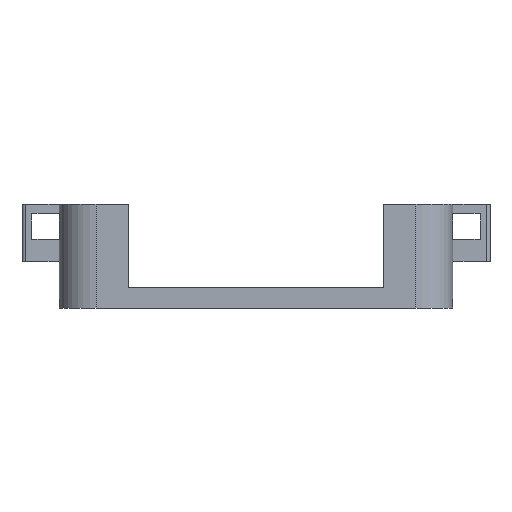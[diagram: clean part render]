
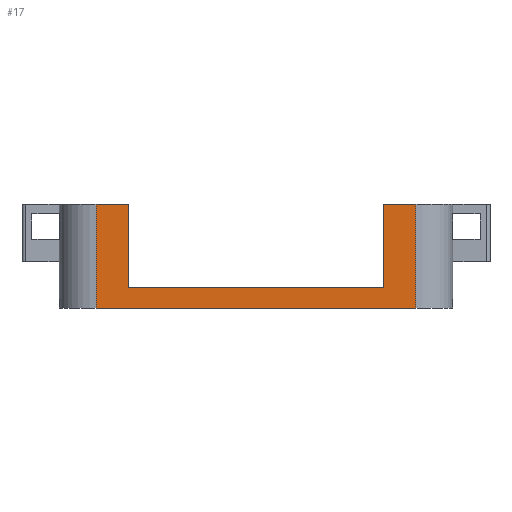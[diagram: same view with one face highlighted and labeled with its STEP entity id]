
A CAD part, left-side view. The second image highlights one B-rep face of the part: STEP entity #17.
In plain terms, the highlighted planar face has unit normal (-1, 0, 0).
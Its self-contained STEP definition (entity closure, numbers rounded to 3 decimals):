
#17 = ADVANCED_FACE('',(#18),#32,.F.);
#18 = FACE_BOUND('',#19,.F.);
#19 = EDGE_LOOP('',(#20,#55,#83,#111,#139,#167,#193,#219));
#20 = ORIENTED_EDGE('',*,*,#21,.F.);
#21 = EDGE_CURVE('',#22,#24,#26,.T.);
#22 = VERTEX_POINT('',#23);
#23 = CARTESIAN_POINT('',(-52.3,-28.3,18.4));
#24 = VERTEX_POINT('',#25);
#25 = CARTESIAN_POINT('',(-52.3,-22.5,18.4));
#26 = SURFACE_CURVE('',#27,(#31,#43),.PCURVE_S1.);
#27 = LINE('',#28,#29);
#28 = CARTESIAN_POINT('',(-52.3,-34.8,18.4));
#29 = VECTOR('',#30,1.);
#30 = DIRECTION('',(0.,1.,0.));
#31 = PCURVE('',#32,#37);
#32 = PLANE('',#33);
#33 = AXIS2_PLACEMENT_3D('',#34,#35,#36);
#34 = CARTESIAN_POINT('',(-52.3,-34.8,0.));
#35 = DIRECTION('',(1.,0.,0.));
#36 = DIRECTION('',(0.,0.,1.));
#37 = DEFINITIONAL_REPRESENTATION('',(#38),#42);
#38 = LINE('',#39,#40);
#39 = CARTESIAN_POINT('',(18.4,0.));
#40 = VECTOR('',#41,1.);
#41 = DIRECTION('',(0.,-1.));
#42 = ( GEOMETRIC_REPRESENTATION_CONTEXT(2) 
PARAMETRIC_REPRESENTATION_CONTEXT() REPRESENTATION_CONTEXT('2D SPACE',''
  ) );
#43 = PCURVE('',#44,#49);
#44 = PLANE('',#45);
#45 = AXIS2_PLACEMENT_3D('',#46,#47,#48);
#46 = CARTESIAN_POINT('',(-52.3,-34.8,18.4));
#47 = DIRECTION('',(0.,0.,1.));
#48 = DIRECTION('',(1.,0.,0.));
#49 = DEFINITIONAL_REPRESENTATION('',(#50),#54);
#50 = LINE('',#51,#52);
#51 = CARTESIAN_POINT('',(0.,0.));
#52 = VECTOR('',#53,1.);
#53 = DIRECTION('',(0.,1.));
#54 = ( GEOMETRIC_REPRESENTATION_CONTEXT(2) 
PARAMETRIC_REPRESENTATION_CONTEXT() REPRESENTATION_CONTEXT('2D SPACE',''
  ) );
#55 = ORIENTED_EDGE('',*,*,#56,.F.);
#56 = EDGE_CURVE('',#57,#22,#59,.T.);
#57 = VERTEX_POINT('',#58);
#58 = CARTESIAN_POINT('',(-52.3,-28.3,0.));
#59 = SURFACE_CURVE('',#60,(#64,#71),.PCURVE_S1.);
#60 = LINE('',#61,#62);
#61 = CARTESIAN_POINT('',(-52.3,-28.3,0.));
#62 = VECTOR('',#63,1.);
#63 = DIRECTION('',(0.,0.,1.));
#64 = PCURVE('',#32,#65);
#65 = DEFINITIONAL_REPRESENTATION('',(#66),#70);
#66 = LINE('',#67,#68);
#67 = CARTESIAN_POINT('',(0.,-6.5));
#68 = VECTOR('',#69,1.);
#69 = DIRECTION('',(1.,0.));
#70 = ( GEOMETRIC_REPRESENTATION_CONTEXT(2) 
PARAMETRIC_REPRESENTATION_CONTEXT() REPRESENTATION_CONTEXT('2D SPACE',''
  ) );
#71 = PCURVE('',#72,#77);
#72 = CYLINDRICAL_SURFACE('',#73,6.5);
#73 = AXIS2_PLACEMENT_3D('',#74,#75,#76);
#74 = CARTESIAN_POINT('',(-45.8,-28.3,0.));
#75 = DIRECTION('',(0.,0.,1.));
#76 = DIRECTION('',(-1.,-0.,0.));
#77 = DEFINITIONAL_REPRESENTATION('',(#78),#82);
#78 = LINE('',#79,#80);
#79 = CARTESIAN_POINT('',(0.,0.));
#80 = VECTOR('',#81,1.);
#81 = DIRECTION('',(0.,1.));
#82 = ( GEOMETRIC_REPRESENTATION_CONTEXT(2) 
PARAMETRIC_REPRESENTATION_CONTEXT() REPRESENTATION_CONTEXT('2D SPACE',''
  ) );
#83 = ORIENTED_EDGE('',*,*,#84,.T.);
#84 = EDGE_CURVE('',#57,#85,#87,.T.);
#85 = VERTEX_POINT('',#86);
#86 = CARTESIAN_POINT('',(-52.3,28.3,0.));
#87 = SURFACE_CURVE('',#88,(#92,#99),.PCURVE_S1.);
#88 = LINE('',#89,#90);
#89 = CARTESIAN_POINT('',(-52.3,-34.8,0.));
#90 = VECTOR('',#91,1.);
#91 = DIRECTION('',(0.,1.,0.));
#92 = PCURVE('',#32,#93);
#93 = DEFINITIONAL_REPRESENTATION('',(#94),#98);
#94 = LINE('',#95,#96);
#95 = CARTESIAN_POINT('',(0.,0.));
#96 = VECTOR('',#97,1.);
#97 = DIRECTION('',(0.,-1.));
#98 = ( GEOMETRIC_REPRESENTATION_CONTEXT(2) 
PARAMETRIC_REPRESENTATION_CONTEXT() REPRESENTATION_CONTEXT('2D SPACE',''
  ) );
#99 = PCURVE('',#100,#105);
#100 = PLANE('',#101);
#101 = AXIS2_PLACEMENT_3D('',#102,#103,#104);
#102 = CARTESIAN_POINT('',(-52.3,-34.8,0.));
#103 = DIRECTION('',(0.,0.,1.));
#104 = DIRECTION('',(1.,0.,0.));
#105 = DEFINITIONAL_REPRESENTATION('',(#106),#110);
#106 = LINE('',#107,#108);
#107 = CARTESIAN_POINT('',(0.,0.));
#108 = VECTOR('',#109,1.);
#109 = DIRECTION('',(0.,1.));
#110 = ( GEOMETRIC_REPRESENTATION_CONTEXT(2) 
PARAMETRIC_REPRESENTATION_CONTEXT() REPRESENTATION_CONTEXT('2D SPACE',''
  ) );
#111 = ORIENTED_EDGE('',*,*,#112,.T.);
#112 = EDGE_CURVE('',#85,#113,#115,.T.);
#113 = VERTEX_POINT('',#114);
#114 = CARTESIAN_POINT('',(-52.3,28.3,18.4));
#115 = SURFACE_CURVE('',#116,(#120,#127),.PCURVE_S1.);
#116 = LINE('',#117,#118);
#117 = CARTESIAN_POINT('',(-52.3,28.3,0.));
#118 = VECTOR('',#119,1.);
#119 = DIRECTION('',(0.,0.,1.));
#120 = PCURVE('',#32,#121);
#121 = DEFINITIONAL_REPRESENTATION('',(#122),#126);
#122 = LINE('',#123,#124);
#123 = CARTESIAN_POINT('',(0.,-63.1));
#124 = VECTOR('',#125,1.);
#125 = DIRECTION('',(1.,0.));
#126 = ( GEOMETRIC_REPRESENTATION_CONTEXT(2) 
PARAMETRIC_REPRESENTATION_CONTEXT() REPRESENTATION_CONTEXT('2D SPACE',''
  ) );
#127 = PCURVE('',#128,#133);
#128 = CYLINDRICAL_SURFACE('',#129,6.5);
#129 = AXIS2_PLACEMENT_3D('',#130,#131,#132);
#130 = CARTESIAN_POINT('',(-45.8,28.3,0.));
#131 = DIRECTION('',(0.,0.,1.));
#132 = DIRECTION('',(-1.,-0.,0.));
#133 = DEFINITIONAL_REPRESENTATION('',(#134),#138);
#134 = LINE('',#135,#136);
#135 = CARTESIAN_POINT('',(-0.,0.));
#136 = VECTOR('',#137,1.);
#137 = DIRECTION('',(-0.,1.));
#138 = ( GEOMETRIC_REPRESENTATION_CONTEXT(2) 
PARAMETRIC_REPRESENTATION_CONTEXT() REPRESENTATION_CONTEXT('2D SPACE',''
  ) );
#139 = ORIENTED_EDGE('',*,*,#140,.F.);
#140 = EDGE_CURVE('',#141,#113,#143,.T.);
#141 = VERTEX_POINT('',#142);
#142 = CARTESIAN_POINT('',(-52.3,22.5,18.4));
#143 = SURFACE_CURVE('',#144,(#148,#155),.PCURVE_S1.);
#144 = LINE('',#145,#146);
#145 = CARTESIAN_POINT('',(-52.3,-34.8,18.4));
#146 = VECTOR('',#147,1.);
#147 = DIRECTION('',(0.,1.,0.));
#148 = PCURVE('',#32,#149);
#149 = DEFINITIONAL_REPRESENTATION('',(#150),#154);
#150 = LINE('',#151,#152);
#151 = CARTESIAN_POINT('',(18.4,0.));
#152 = VECTOR('',#153,1.);
#153 = DIRECTION('',(0.,-1.));
#154 = ( GEOMETRIC_REPRESENTATION_CONTEXT(2) 
PARAMETRIC_REPRESENTATION_CONTEXT() REPRESENTATION_CONTEXT('2D SPACE',''
  ) );
#155 = PCURVE('',#156,#161);
#156 = PLANE('',#157);
#157 = AXIS2_PLACEMENT_3D('',#158,#159,#160);
#158 = CARTESIAN_POINT('',(-52.3,-34.8,18.4));
#159 = DIRECTION('',(0.,0.,1.));
#160 = DIRECTION('',(1.,0.,0.));
#161 = DEFINITIONAL_REPRESENTATION('',(#162),#166);
#162 = LINE('',#163,#164);
#163 = CARTESIAN_POINT('',(0.,0.));
#164 = VECTOR('',#165,1.);
#165 = DIRECTION('',(0.,1.));
#166 = ( GEOMETRIC_REPRESENTATION_CONTEXT(2) 
PARAMETRIC_REPRESENTATION_CONTEXT() REPRESENTATION_CONTEXT('2D SPACE',''
  ) );
#167 = ORIENTED_EDGE('',*,*,#168,.F.);
#168 = EDGE_CURVE('',#169,#141,#171,.T.);
#169 = VERTEX_POINT('',#170);
#170 = CARTESIAN_POINT('',(-52.3,22.5,3.6));
#171 = SURFACE_CURVE('',#172,(#176,#182),.PCURVE_S1.);
#172 = LINE('',#173,#174);
#173 = CARTESIAN_POINT('',(-52.3,22.5,1.8));
#174 = VECTOR('',#175,1.);
#175 = DIRECTION('',(0.,0.,1.));
#176 = PCURVE('',#32,#177);
#177 = DEFINITIONAL_REPRESENTATION('',(#178),#181);
#178 = B_SPLINE_CURVE_WITH_KNOTS('',1,(#179,#180),.UNSPECIFIED.,.F.,.F.,
  (2,2),(1.8,16.6),.PIECEWISE_BEZIER_KNOTS.);
#179 = CARTESIAN_POINT('',(3.6,-57.3));
#180 = CARTESIAN_POINT('',(18.4,-57.3));
#181 = ( GEOMETRIC_REPRESENTATION_CONTEXT(2) 
PARAMETRIC_REPRESENTATION_CONTEXT() REPRESENTATION_CONTEXT('2D SPACE',''
  ) );
#182 = PCURVE('',#183,#188);
#183 = PLANE('',#184);
#184 = AXIS2_PLACEMENT_3D('',#185,#186,#187);
#185 = CARTESIAN_POINT('',(-61.3,22.5,3.6));
#186 = DIRECTION('',(0.,1.,0.));
#187 = DIRECTION('',(0.,0.,1.));
#188 = DEFINITIONAL_REPRESENTATION('',(#189),#192);
#189 = B_SPLINE_CURVE_WITH_KNOTS('',1,(#190,#191),.UNSPECIFIED.,.F.,.F.,
  (2,2),(1.8,16.6),.PIECEWISE_BEZIER_KNOTS.);
#190 = CARTESIAN_POINT('',(0.,9.));
#191 = CARTESIAN_POINT('',(14.8,9.));
#192 = ( GEOMETRIC_REPRESENTATION_CONTEXT(2) 
PARAMETRIC_REPRESENTATION_CONTEXT() REPRESENTATION_CONTEXT('2D SPACE',''
  ) );
#193 = ORIENTED_EDGE('',*,*,#194,.T.);
#194 = EDGE_CURVE('',#169,#195,#197,.T.);
#195 = VERTEX_POINT('',#196);
#196 = CARTESIAN_POINT('',(-52.3,-22.5,3.6));
#197 = SURFACE_CURVE('',#198,(#202,#208),.PCURVE_S1.);
#198 = LINE('',#199,#200);
#199 = CARTESIAN_POINT('',(-52.3,-28.65,3.6));
#200 = VECTOR('',#201,1.);
#201 = DIRECTION('',(0.,-1.,0.));
#202 = PCURVE('',#32,#203);
#203 = DEFINITIONAL_REPRESENTATION('',(#204),#207);
#204 = B_SPLINE_CURVE_WITH_KNOTS('',1,(#205,#206),.UNSPECIFIED.,.F.,.F.,
  (2,2),(-51.15,-6.15),.PIECEWISE_BEZIER_KNOTS.);
#205 = CARTESIAN_POINT('',(3.6,-57.3));
#206 = CARTESIAN_POINT('',(3.6,-12.3));
#207 = ( GEOMETRIC_REPRESENTATION_CONTEXT(2) 
PARAMETRIC_REPRESENTATION_CONTEXT() REPRESENTATION_CONTEXT('2D SPACE',''
  ) );
#208 = PCURVE('',#209,#214);
#209 = PLANE('',#210);
#210 = AXIS2_PLACEMENT_3D('',#211,#212,#213);
#211 = CARTESIAN_POINT('',(-61.3,-22.5,3.6));
#212 = DIRECTION('',(0.,0.,1.));
#213 = DIRECTION('',(1.,0.,0.));
#214 = DEFINITIONAL_REPRESENTATION('',(#215),#218);
#215 = B_SPLINE_CURVE_WITH_KNOTS('',1,(#216,#217),.UNSPECIFIED.,.F.,.F.,
  (2,2),(-51.15,-6.15),.PIECEWISE_BEZIER_KNOTS.);
#216 = CARTESIAN_POINT('',(9.,45.));
#217 = CARTESIAN_POINT('',(9.,0.));
#218 = ( GEOMETRIC_REPRESENTATION_CONTEXT(2) 
PARAMETRIC_REPRESENTATION_CONTEXT() REPRESENTATION_CONTEXT('2D SPACE',''
  ) );
#219 = ORIENTED_EDGE('',*,*,#220,.T.);
#220 = EDGE_CURVE('',#195,#24,#221,.T.);
#221 = SURFACE_CURVE('',#222,(#226,#232),.PCURVE_S1.);
#222 = LINE('',#223,#224);
#223 = CARTESIAN_POINT('',(-52.3,-22.5,1.8));
#224 = VECTOR('',#225,1.);
#225 = DIRECTION('',(0.,0.,1.));
#226 = PCURVE('',#32,#227);
#227 = DEFINITIONAL_REPRESENTATION('',(#228),#231);
#228 = B_SPLINE_CURVE_WITH_KNOTS('',1,(#229,#230),.UNSPECIFIED.,.F.,.F.,
  (2,2),(1.8,16.6),.PIECEWISE_BEZIER_KNOTS.);
#229 = CARTESIAN_POINT('',(3.6,-12.3));
#230 = CARTESIAN_POINT('',(18.4,-12.3));
#231 = ( GEOMETRIC_REPRESENTATION_CONTEXT(2) 
PARAMETRIC_REPRESENTATION_CONTEXT() REPRESENTATION_CONTEXT('2D SPACE',''
  ) );
#232 = PCURVE('',#233,#238);
#233 = PLANE('',#234);
#234 = AXIS2_PLACEMENT_3D('',#235,#236,#237);
#235 = CARTESIAN_POINT('',(-61.3,-22.5,3.6));
#236 = DIRECTION('',(0.,1.,0.));
#237 = DIRECTION('',(0.,0.,1.));
#238 = DEFINITIONAL_REPRESENTATION('',(#239),#242);
#239 = B_SPLINE_CURVE_WITH_KNOTS('',1,(#240,#241),.UNSPECIFIED.,.F.,.F.,
  (2,2),(1.8,16.6),.PIECEWISE_BEZIER_KNOTS.);
#240 = CARTESIAN_POINT('',(0.,9.));
#241 = CARTESIAN_POINT('',(14.8,9.));
#242 = ( GEOMETRIC_REPRESENTATION_CONTEXT(2) 
PARAMETRIC_REPRESENTATION_CONTEXT() REPRESENTATION_CONTEXT('2D SPACE',''
  ) );
